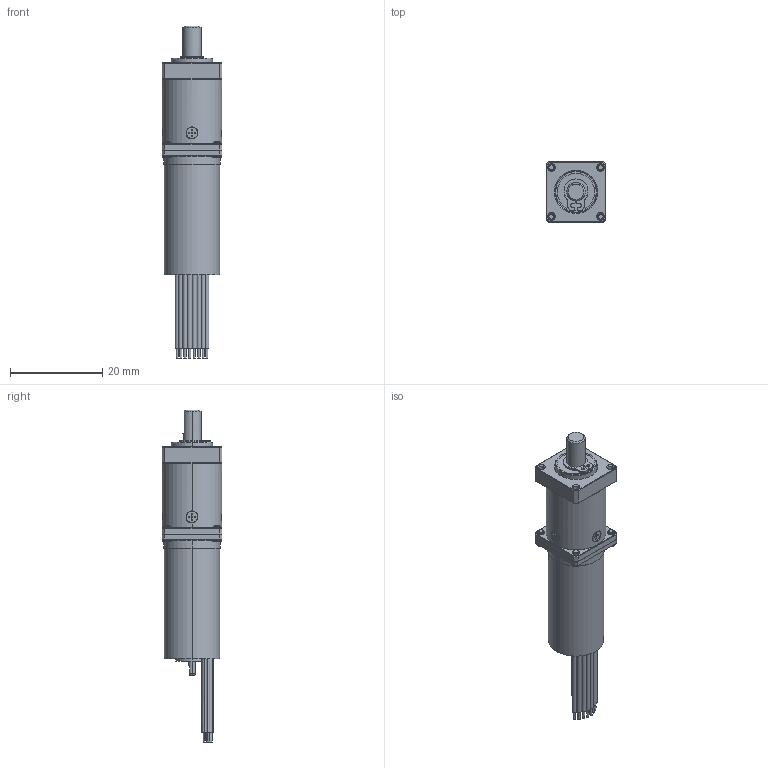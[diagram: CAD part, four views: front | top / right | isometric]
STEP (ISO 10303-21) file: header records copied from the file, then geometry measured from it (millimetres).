
FILE_DESCRIPTION (( 'STEP AP203' ), '1' );
FILE_NAME ('○TB12M242L11+SDP13HB-4.STEP', '2026-09-09T06:48:31', ( '' ), ( '' ), 'SwSTEP 2.0', 'SolidWorks 2026', '' );
FILE_SCHEMA (( 'CONFIG_CONTROL_DESIGN' ));
Length unit declared in the file: millimetre
Products named in the file (1): ○TB12M242L11+SDP13HB-4
Bounding box: 13 x 13 x 72 mm (x, y, z)
Volume: 6052.1 mm3; surface area: 3115.3 mm2
Topology: 1 solids, 7 shells, 621 faces, 1487 edges, 917 vertices
Faces by surface type: plane 224, cylinder 202, cone 115, torus 71, sphere 9
Entity records: 18830 total; most frequent: CARTESIAN_POINT 4467, DIRECTION 3069, ORIENTED_EDGE 2946, EDGE_CURVE 1473, AXIS2_PLACEMENT_3D 1233, VERTEX_POINT 915, EDGE_LOOP 686, ADVANCED_FACE 621
